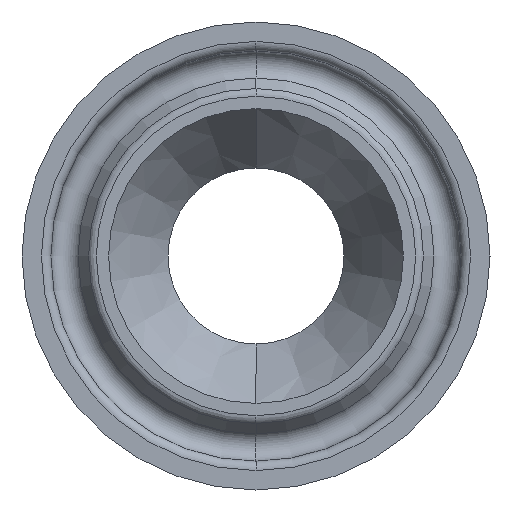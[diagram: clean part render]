
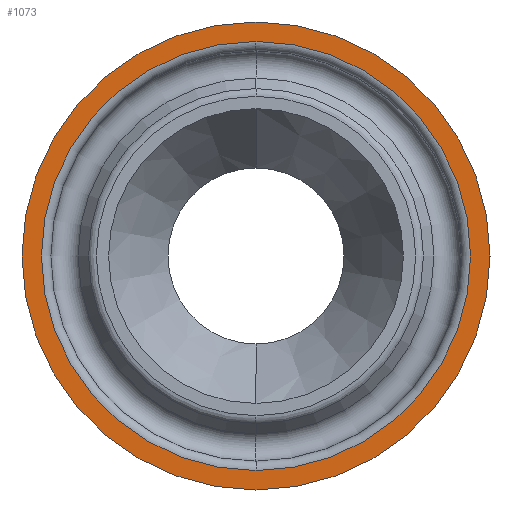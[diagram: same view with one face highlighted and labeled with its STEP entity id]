
A CAD part, left-side view. The second image highlights one B-rep face of the part: STEP entity #1073.
In plain terms, the highlighted planar face has unit normal (-1, 0, 0).
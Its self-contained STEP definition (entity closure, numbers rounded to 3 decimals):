
#82 = EDGE_CURVE ( 'NONE', #5821, #1041, #1508, .T. ) ;
#469 = CARTESIAN_POINT ( 'NONE',  ( 0., 0., 0. ) ) ;
#576 = VERTEX_POINT ( 'NONE', #5981 ) ;
#887 = VERTEX_POINT ( 'NONE', #2045 ) ;
#963 = FACE_OUTER_BOUND ( 'NONE', #2619, .T. ) ;
#1041 = VERTEX_POINT ( 'NONE', #1298 ) ;
#1073 = ADVANCED_FACE ( 'NONE', ( #5167, #963 ), #5627, .F. ) ;
#1298 = CARTESIAN_POINT ( 'NONE',  ( 0., 0., 12.5 ) ) ;
#1388 = DIRECTION ( 'NONE',  ( 0., 0., 1. ) ) ;
#1508 = CIRCLE ( 'NONE', #3880, 12.5 ) ;
#2045 = CARTESIAN_POINT ( 'NONE',  ( 0., 0., 11.46 ) ) ;
#2248 = CIRCLE ( 'NONE', #5717, 12.5 ) ;
#2249 = DIRECTION ( 'NONE',  ( -1., 0., 0. ) ) ;
#2619 = EDGE_LOOP ( 'NONE', ( #3654, #3681 ) ) ;
#2713 = DIRECTION ( 'NONE',  ( 0., 0., 1. ) ) ;
#2747 = DIRECTION ( 'NONE',  ( 0., 0., -1. ) ) ;
#2843 = DIRECTION ( 'NONE',  ( -1., 0., 0. ) ) ;
#3012 = CIRCLE ( 'NONE', #3795, 11.46 ) ;
#3280 = CARTESIAN_POINT ( 'NONE',  ( 0., 7.875, 0. ) ) ;
#3338 = CARTESIAN_POINT ( 'NONE',  ( 0., 0., 0. ) ) ;
#3642 = AXIS2_PLACEMENT_3D ( 'NONE', #469, #4813, #3855 ) ;
#3650 = ORIENTED_EDGE ( 'NONE', *, *, #5212, .T. ) ;
#3654 = ORIENTED_EDGE ( 'NONE', *, *, #5468, .T. ) ;
#3681 = ORIENTED_EDGE ( 'NONE', *, *, #82, .T. ) ;
#3776 = CARTESIAN_POINT ( 'NONE',  ( 0., 0., -12.5 ) ) ;
#3795 = AXIS2_PLACEMENT_3D ( 'NONE', #4765, #3898, #5262 ) ;
#3855 = DIRECTION ( 'NONE',  ( 0., 0., -1. ) ) ;
#3880 = AXIS2_PLACEMENT_3D ( 'NONE', #3338, #2843, #1388 ) ;
#3898 = DIRECTION ( 'NONE',  ( 1., 0., 0. ) ) ;
#4318 = EDGE_LOOP ( 'NONE', ( #4574, #3650 ) ) ;
#4574 = ORIENTED_EDGE ( 'NONE', *, *, #5776, .T. ) ;
#4765 = CARTESIAN_POINT ( 'NONE',  ( 0., 0., 0. ) ) ;
#4813 = DIRECTION ( 'NONE',  ( 1., 0., 0. ) ) ;
#4936 = CIRCLE ( 'NONE', #3642, 11.46 ) ;
#5094 = AXIS2_PLACEMENT_3D ( 'NONE', #3280, #6060, #2747 ) ;
#5167 = FACE_BOUND ( 'NONE', #4318, .T. ) ;
#5212 = EDGE_CURVE ( 'NONE', #887, #576, #4936, .T. ) ;
#5262 = DIRECTION ( 'NONE',  ( 0., 0., -1. ) ) ;
#5468 = EDGE_CURVE ( 'NONE', #1041, #5821, #2248, .T. ) ;
#5627 = PLANE ( 'NONE',  #5094 ) ;
#5717 = AXIS2_PLACEMENT_3D ( 'NONE', #5967, #2249, #2713 ) ;
#5776 = EDGE_CURVE ( 'NONE', #576, #887, #3012, .T. ) ;
#5821 = VERTEX_POINT ( 'NONE', #3776 ) ;
#5967 = CARTESIAN_POINT ( 'NONE',  ( 0., 0., 0. ) ) ;
#5981 = CARTESIAN_POINT ( 'NONE',  ( 0., 0., -11.46 ) ) ;
#6060 = DIRECTION ( 'NONE',  ( 1., 0., 0. ) ) ;
